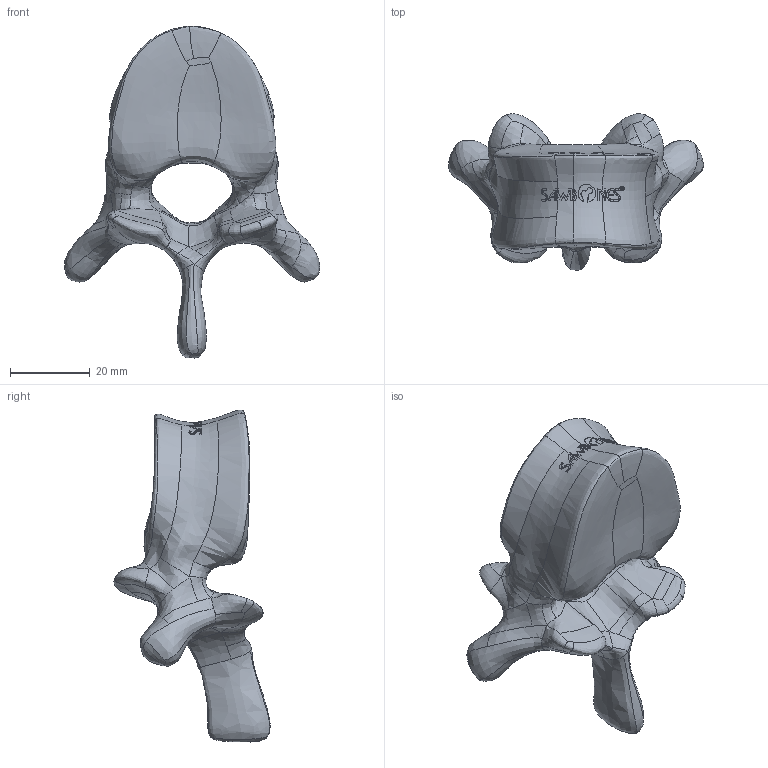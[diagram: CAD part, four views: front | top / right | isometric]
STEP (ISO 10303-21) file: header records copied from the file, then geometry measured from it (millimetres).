
FILE_DESCRIPTION (( 'STEP AP203' ), '1' );
FILE_NAME ('1379-60-11.STEP', '2026-07-28T19:27:57', ( '' ), ( '' ), 'SwSTEP 2.0', 'SolidWorks 2024', '' );
FILE_SCHEMA (( 'CONFIG_CONTROL_DESIGN' ));
Products named in the file (1): 1379-60-11
Bounding box: 63.91 x 39.1 x 83.09 mm (x, y, z)
Volume: 40276.6 mm3; surface area: 10625.2 mm2
Topology: 1 solids, 1 shells, 371 faces, 995 edges, 635 vertices
Faces by surface type: bspline 370, plane 1
Entity records: 37705 total; most frequent: CARTESIAN_POINT 31497, ORIENTED_EDGE 1990, EDGE_CURVE 995, B_SPLINE_CURVE_WITH_KNOTS 995, VERTEX_POINT 635, EDGE_LOOP 382, FACE_OUTER_BOUND 371, ADVANCED_FACE 371
